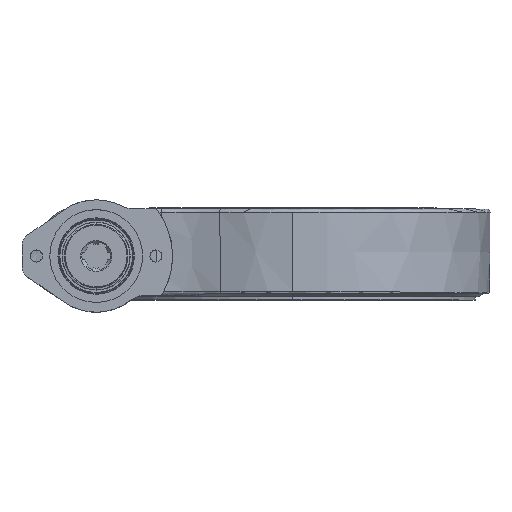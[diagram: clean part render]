
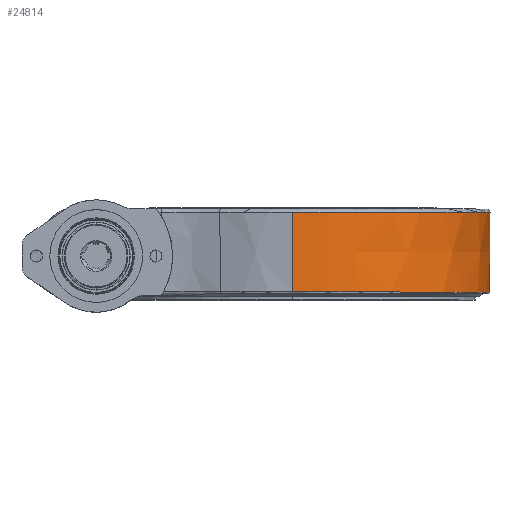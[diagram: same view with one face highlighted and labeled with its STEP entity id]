
A CAD part, top view. The second image highlights one B-rep face of the part: STEP entity #24814.
In plain terms, the highlighted conical face has half-angle 0.4 degrees and reference radius 175.5 mm.
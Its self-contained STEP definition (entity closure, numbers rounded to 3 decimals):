
#453 = VERTEX_POINT ( 'NONE', #563 ) ;
#473 = VERTEX_POINT ( 'NONE', #602 ) ;
#489 = VERTEX_POINT ( 'NONE', #1238 ) ;
#492 = VERTEX_POINT ( 'NONE', #1159 ) ;
#512 = VERTEX_POINT ( 'NONE', #1379 ) ;
#563 = CARTESIAN_POINT ( 'NONE',  ( 0., 38.979, -175.479 ) ) ;
#602 = CARTESIAN_POINT ( 'NONE',  ( 175.479, 38.979, 0. ) ) ;
#1159 = CARTESIAN_POINT ( 'NONE',  ( 0., 38.979, 175.479 ) ) ;
#1238 = CARTESIAN_POINT ( 'NONE',  ( 0., -32.021, 174.983 ) ) ;
#1379 = CARTESIAN_POINT ( 'NONE',  ( 0., -32.021, -174.983 ) ) ;
#1823 = CONICAL_SURFACE ( 'NONE', #11484, 175.5, 0.007 ) ;
#1824 = FACE_OUTER_BOUND ( 'NONE', #2561, .T. ) ;
#2561 = EDGE_LOOP ( 'NONE', ( #7818, #7844, #7967, #7425, #7468 ) ) ;
#4044 = EDGE_CURVE ( 'NONE', #489, #492, #23509, .T. ) ;
#4045 = EDGE_CURVE ( 'NONE', #453, #473, #23504, .T. ) ;
#4056 = EDGE_CURVE ( 'NONE', #512, #453, #22915, .T. ) ;
#4062 = EDGE_CURVE ( 'NONE', #489, #512, #22904, .T. ) ;
#4065 = EDGE_CURVE ( 'NONE', #473, #492, #23222, .T. ) ;
#7425 = ORIENTED_EDGE ( 'NONE', *, *, #4065, .T. ) ;
#7468 = ORIENTED_EDGE ( 'NONE', *, *, #4044, .F. ) ;
#7818 = ORIENTED_EDGE ( 'NONE', *, *, #4062, .T. ) ;
#7844 = ORIENTED_EDGE ( 'NONE', *, *, #4056, .T. ) ;
#7967 = ORIENTED_EDGE ( 'NONE', *, *, #4045, .T. ) ;
#11484 = AXIS2_PLACEMENT_3D ( 'NONE', #15323, #15716, #15327 ) ;
#15323 = CARTESIAN_POINT ( 'NONE',  ( 0., 42., 0. ) ) ;
#15327 = DIRECTION ( 'NONE',  ( 0., 0., 1. ) ) ;
#15716 = DIRECTION ( 'NONE',  ( 0., 1., 0. ) ) ;
#18052 = DIRECTION ( 'NONE',  ( 0., 1., -0.007 ) ) ;
#18054 = CARTESIAN_POINT ( 'NONE',  ( 0., 42., -175.5 ) ) ;
#18091 = CARTESIAN_POINT ( 'NONE',  ( 0., 42., 175.5 ) ) ;
#18113 = DIRECTION ( 'NONE',  ( 0., -1., 0. ) ) ;
#18115 = DIRECTION ( 'NONE',  ( 0., 1., 0.007 ) ) ;
#18116 = CARTESIAN_POINT ( 'NONE',  ( 0., 38.979, 0. ) ) ;
#18126 = CARTESIAN_POINT ( 'NONE',  ( 0., -32.021, 0. ) ) ;
#18131 = DIRECTION ( 'NONE',  ( -1., 0., 0. ) ) ;
#18158 = DIRECTION ( 'NONE',  ( 0., 1., 0. ) ) ;
#18159 = DIRECTION ( 'NONE',  ( -1., 0., 0. ) ) ;
#18161 = CARTESIAN_POINT ( 'NONE',  ( 0., 38.979, 0. ) ) ;
#18290 = DIRECTION ( 'NONE',  ( -1., 0., 0. ) ) ;
#18291 = DIRECTION ( 'NONE',  ( 0., -1., 0. ) ) ;
#19674 = AXIS2_PLACEMENT_3D ( 'NONE', #18161, #18291, #18290 ) ;
#19678 = AXIS2_PLACEMENT_3D ( 'NONE', #18126, #18158, #18159 ) ;
#19769 = AXIS2_PLACEMENT_3D ( 'NONE', #18116, #18113, #18131 ) ;
#22904 = CIRCLE ( 'NONE', #19678, 174.983 ) ;
#22915 = LINE ( 'NONE', #18054, #23391 ) ;
#23222 = CIRCLE ( 'NONE', #19674, 175.479 ) ;
#23391 = VECTOR ( 'NONE', #18052, 1000. ) ;
#23504 = CIRCLE ( 'NONE', #19769, 175.479 ) ;
#23508 = VECTOR ( 'NONE', #18115, 1000. ) ;
#23509 = LINE ( 'NONE', #18091, #23508 ) ;
#24814 = ADVANCED_FACE ( 'NONE', ( #1824 ), #1823, .T. ) ;
